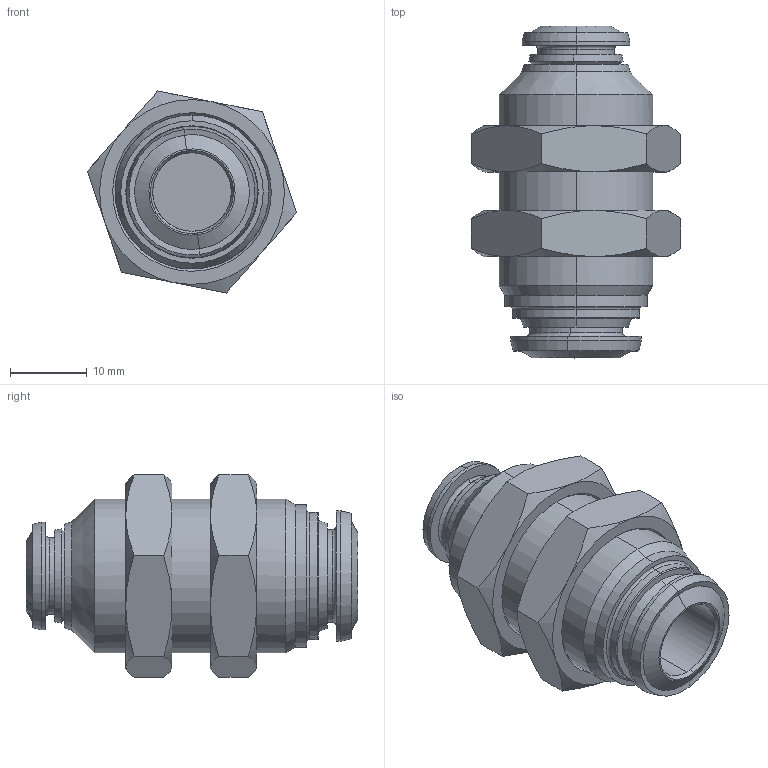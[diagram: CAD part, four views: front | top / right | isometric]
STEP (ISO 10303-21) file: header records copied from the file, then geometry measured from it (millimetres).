
FILE_DESCRIPTION (( 'STEP AP214' ), '1' );
FILE_NAME ('5705000011A.STEP', '2019-06-18T08:09:29', ( 'AIGNEP' ), ( 'Hewlett-Packard Company' ), 'SwSTEP 2.0', 'SolidWorks 2016', '' );
FILE_SCHEMA (( 'AUTOMOTIVE_DESIGN' ));
Length unit declared in the file: millimetre
Products named in the file (1): 5705000011A
Bounding box: 27.18 x 43.1 x 26.24 mm (x, y, z)
Volume: 11477.3 mm3; surface area: 5113.4 mm2
Topology: 1 solids, 1 shells, 257 faces, 604 edges, 383 vertices
Faces by surface type: cone 110, bspline 57, plane 54, cylinder 26, torus 10
Entity records: 11838 total; most frequent: CARTESIAN_POINT 6380, ORIENTED_EDGE 1204, DIRECTION 966, EDGE_CURVE 602, AXIS2_PLACEMENT_3D 403, VERTEX_POINT 383, EDGE_LOOP 293, FACE_OUTER_BOUND 257
